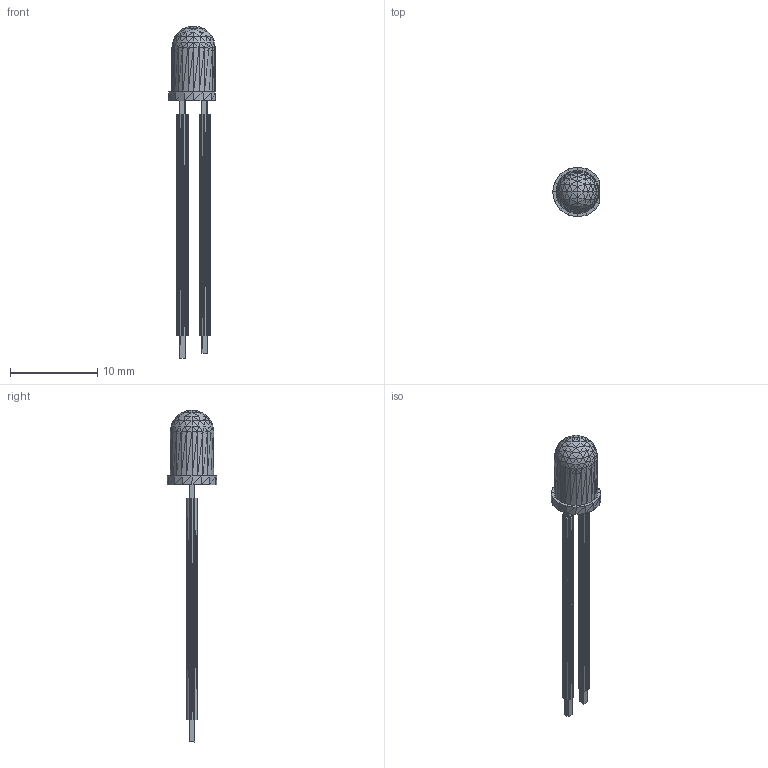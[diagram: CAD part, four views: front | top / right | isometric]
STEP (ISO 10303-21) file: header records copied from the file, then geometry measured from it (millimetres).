
FILE_DESCRIPTION(('HOOPS Exchange Step'),'2;1');
FILE_NAME('***.stp');
FILE_SCHEMA( ('AP242_MANAGED_MODEL_BASED_3D_ENGINEERING_MIM_LF {1 0 10303 442 1 1 4 }') );
Length unit declared in the file: inch
Products named in the file (9): LED1250MIL_2; LED1250MIL_3; LED1250MIL_4; LED1250MIL_5; LED1250MIL_6; LED1250MIL_7; LED1250MIL_8; LED1250MIL_9; LED1250MIL
Assembly tree (8 placements, depth 2):
  LED1250MIL
    LED1250MIL_2
    LED1250MIL_3
    LED1250MIL_4
    LED1250MIL_5
    LED1250MIL_6
    LED1250MIL_7
    LED1250MIL_8
    LED1250MIL_9
Bounding box: 5.35 x 5.72 x 38.04 mm (x, y, z)
Volume: 280.2 mm3; surface area: 650.1 mm2
Topology: 8 solids, 8 shells, 952 faces, 1428 edges, 492 vertices
Faces by surface type: plane 952
Entity records: 18990 total; most frequent: DIRECTION 3368, CARTESIAN_POINT 2890, ORIENTED_EDGE 2856, VECTOR 1428, LINE 1428, EDGE_CURVE 1428, AXIS2_PLACEMENT_3D 970, PLANE 952
